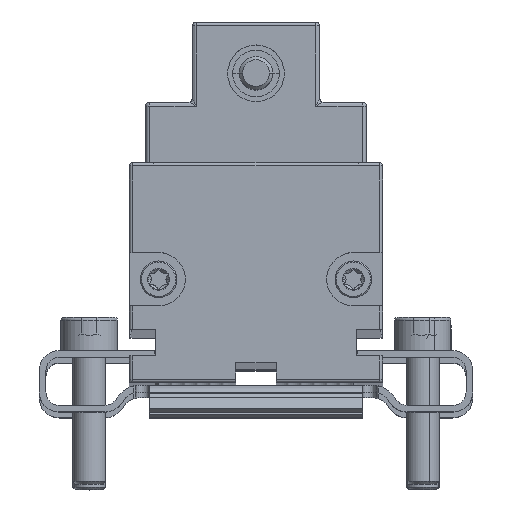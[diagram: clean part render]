
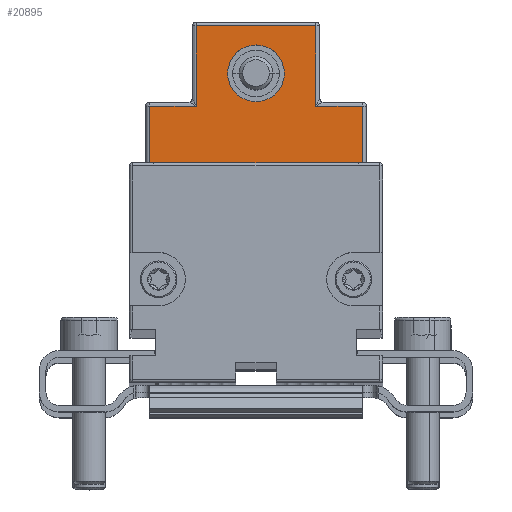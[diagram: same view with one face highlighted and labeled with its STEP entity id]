
A CAD part, top view. The second image highlights one B-rep face of the part: STEP entity #20895.
In plain terms, the highlighted planar face has unit normal (0, 0, 1).
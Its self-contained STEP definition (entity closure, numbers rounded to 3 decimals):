
#5865 = DIRECTION ( 'NONE',  ( 0., 1., 0. ) ) ;
#5867 = DIRECTION ( 'NONE',  ( 0., 0., 1. ) ) ;
#5869 = CARTESIAN_POINT ( 'NONE',  ( 0., 47.5, 104.1 ) ) ;
#5870 = AXIS2_PLACEMENT_3D ( 'NONE', #5869, #5867, #5865 ) ;
#5871 = CIRCLE ( 'NONE', #5870, 4.25 ) ;
#5975 = FACE_OUTER_BOUND ( 'NONE', #21309, .T. ) ;
#5977 = FACE_BOUND ( 'NONE', #18940, .T. ) ;
#6077 = DIRECTION ( 'NONE',  ( 0., -1., 0. ) ) ;
#6079 = DIRECTION ( 'NONE',  ( 0., 0., -1. ) ) ;
#6080 = CARTESIAN_POINT ( 'NONE',  ( -15.25, 31.3, 104.1 ) ) ;
#6082 = AXIS2_PLACEMENT_3D ( 'NONE', #6080, #6079, #6077 ) ;
#6088 = PLANE ( 'NONE',  #6082 ) ;
#6141 = DIRECTION ( 'NONE',  ( -1., 0., 0. ) ) ;
#6142 = VECTOR ( 'NONE', #6141, 1000. ) ;
#6144 = CARTESIAN_POINT ( 'NONE',  ( 9.75, 31., 104.1 ) ) ;
#6146 = LINE ( 'NONE', #6144, #6142 ) ;
#6151 = DIRECTION ( 'NONE',  ( 0., 1., 0. ) ) ;
#6153 = VECTOR ( 'NONE', #6151, 1000. ) ;
#6155 = CARTESIAN_POINT ( 'NONE',  ( -9.75, 31., 104.1 ) ) ;
#6156 = LINE ( 'NONE', #6155, #6153 ) ;
#6161 = CARTESIAN_POINT ( 'NONE',  ( -9.75, 31., 104.1 ) ) ;
#6251 = LINE ( 'NONE', #6399, #6397 ) ;
#6264 = CARTESIAN_POINT ( 'NONE',  ( -15.95, 42.6, 104.1 ) ) ;
#6266 = DIRECTION ( 'NONE',  ( -1., 0., 0. ) ) ;
#6268 = VECTOR ( 'NONE', #6266, 1000. ) ;
#6269 = CARTESIAN_POINT ( 'NONE',  ( -16.55, 42.6, 104.1 ) ) ;
#6271 = LINE ( 'NONE', #6269, #6268 ) ;
#6303 = CARTESIAN_POINT ( 'NONE',  ( 8.95, 54.6, 104.1 ) ) ;
#6307 = CARTESIAN_POINT ( 'NONE',  ( -8.95, 42.6, 104.1 ) ) ;
#6340 = CARTESIAN_POINT ( 'NONE',  ( 8.95, 42.6, 104.1 ) ) ;
#6396 = DIRECTION ( 'NONE',  ( 0., -1., 0. ) ) ;
#6397 = VECTOR ( 'NONE', #6396, 1000. ) ;
#6399 = CARTESIAN_POINT ( 'NONE',  ( -15.95, 31.3, 104.1 ) ) ;
#6444 = CARTESIAN_POINT ( 'NONE',  ( 15.95, 42.6, 104.1 ) ) ;
#6447 = DIRECTION ( 'NONE',  ( 0., 1., 0. ) ) ;
#6449 = VECTOR ( 'NONE', #6447, 1000. ) ;
#6451 = CARTESIAN_POINT ( 'NONE',  ( 15.95, 31.3, 104.1 ) ) ;
#6452 = LINE ( 'NONE', #6451, #6449 ) ;
#6457 = DIRECTION ( 'NONE',  ( 0., 1., 0. ) ) ;
#6458 = VECTOR ( 'NONE', #6457, 1000. ) ;
#6461 = CARTESIAN_POINT ( 'NONE',  ( 8.95, 55.2, 104.1 ) ) ;
#6462 = LINE ( 'NONE', #6461, #6458 ) ;
#6466 = DIRECTION ( 'NONE',  ( -1., 0., 0. ) ) ;
#6468 = VECTOR ( 'NONE', #6466, 1000. ) ;
#6469 = CARTESIAN_POINT ( 'NONE',  ( -15.25, 42.6, 104.1 ) ) ;
#6471 = LINE ( 'NONE', #6469, #6468 ) ;
#6498 = CARTESIAN_POINT ( 'NONE',  ( 9.75, 31.2, 104.1 ) ) ;
#6504 = CARTESIAN_POINT ( 'NONE',  ( 15.95, 31.2, 104.1 ) ) ;
#6515 = DIRECTION ( 'NONE',  ( -1., 0., 0. ) ) ;
#6516 = VECTOR ( 'NONE', #6515, 1000. ) ;
#6518 = CARTESIAN_POINT ( 'NONE',  ( -15.95, 31.2, 104.1 ) ) ;
#6520 = LINE ( 'NONE', #6518, #6516 ) ;
#6606 = DIRECTION ( 'NONE',  ( 0., 1., 0. ) ) ;
#6607 = VECTOR ( 'NONE', #6606, 1000. ) ;
#6609 = CARTESIAN_POINT ( 'NONE',  ( 9.75, 31., 104.1 ) ) ;
#6610 = LINE ( 'NONE', #6609, #6607 ) ;
#6814 = DIRECTION ( 'NONE',  ( 0., -1., 0. ) ) ;
#6815 = VECTOR ( 'NONE', #6814, 1000. ) ;
#6817 = CARTESIAN_POINT ( 'NONE',  ( -8.95, 31.3, 104.1 ) ) ;
#6819 = LINE ( 'NONE', #6817, #6815 ) ;
#6852 = DIRECTION ( 'NONE',  ( -1., 0., 0. ) ) ;
#6854 = VECTOR ( 'NONE', #6852, 1000. ) ;
#6856 = CARTESIAN_POINT ( 'NONE',  ( -15.25, 54.6, 104.1 ) ) ;
#6858 = LINE ( 'NONE', #6856, #6854 ) ;
#6884 = CARTESIAN_POINT ( 'NONE',  ( -8.95, 54.6, 104.1 ) ) ;
#18900 = ORIENTED_EDGE ( 'NONE', *, *, #20430, .F. ) ;
#18940 = EDGE_LOOP ( 'NONE', ( #18900, #21185 ) ) ;
#20430 = EDGE_CURVE ( 'NONE', #30541, #30412, #5871, .T. ) ;
#20895 = ADVANCED_FACE ( 'NONE', ( #5977, #5975 ), #6088, .F. ) ;
#20908 = VERTEX_POINT ( 'NONE', #6161 ) ;
#20966 = EDGE_CURVE ( 'NONE', #20908, #30482, #6156, .T. ) ;
#21007 = EDGE_CURVE ( 'NONE', #29936, #20908, #6146, .T. ) ;
#21131 = ORIENTED_EDGE ( 'NONE', *, *, #21007, .F. ) ;
#21155 = VERTEX_POINT ( 'NONE', #6307 ) ;
#21184 = VERTEX_POINT ( 'NONE', #6303 ) ;
#21185 = ORIENTED_EDGE ( 'NONE', *, *, #30576, .F. ) ;
#21213 = EDGE_CURVE ( 'NONE', #21155, #21232, #6271, .T. ) ;
#21232 = VERTEX_POINT ( 'NONE', #6264 ) ;
#21260 = ORIENTED_EDGE ( 'NONE', *, *, #21306, .T. ) ;
#21306 = EDGE_CURVE ( 'NONE', #21232, #30486, #6251, .T. ) ;
#21308 = ORIENTED_EDGE ( 'NONE', *, *, #21213, .T. ) ;
#21309 = EDGE_LOOP ( 'NONE', ( #21308, #21260, #21312, #21325, #21131, #22546, #22352, #22092, #21539, #21532, #24594, #23916 ) ) ;
#21312 = ORIENTED_EDGE ( 'NONE', *, *, #30481, .F. ) ;
#21325 = ORIENTED_EDGE ( 'NONE', *, *, #20966, .F. ) ;
#21452 = VERTEX_POINT ( 'NONE', #6340 ) ;
#21532 = ORIENTED_EDGE ( 'NONE', *, *, #21590, .T. ) ;
#21539 = ORIENTED_EDGE ( 'NONE', *, *, #21543, .T. ) ;
#21543 = EDGE_CURVE ( 'NONE', #21824, #21452, #6471, .T. ) ;
#21590 = EDGE_CURVE ( 'NONE', #21452, #21184, #6462, .T. ) ;
#21705 = EDGE_CURVE ( 'NONE', #22508, #21824, #6452, .T. ) ;
#21824 = VERTEX_POINT ( 'NONE', #6444 ) ;
#22092 = ORIENTED_EDGE ( 'NONE', *, *, #21705, .T. ) ;
#22352 = ORIENTED_EDGE ( 'NONE', *, *, #22396, .F. ) ;
#22396 = EDGE_CURVE ( 'NONE', #22508, #22580, #6520, .T. ) ;
#22508 = VERTEX_POINT ( 'NONE', #6504 ) ;
#22546 = ORIENTED_EDGE ( 'NONE', *, *, #22660, .T. ) ;
#22580 = VERTEX_POINT ( 'NONE', #6498 ) ;
#22660 = EDGE_CURVE ( 'NONE', #29936, #22580, #6610, .T. ) ;
#23916 = ORIENTED_EDGE ( 'NONE', *, *, #24160, .T. ) ;
#24160 = EDGE_CURVE ( 'NONE', #24482, #21155, #6819, .T. ) ;
#24482 = VERTEX_POINT ( 'NONE', #6884 ) ;
#24594 = ORIENTED_EDGE ( 'NONE', *, *, #24970, .T. ) ;
#24970 = EDGE_CURVE ( 'NONE', #21184, #24482, #6858, .T. ) ;
#29936 = VERTEX_POINT ( 'NONE', #33609 ) ;
#30412 = VERTEX_POINT ( 'NONE', #35053 ) ;
#30481 = EDGE_CURVE ( 'NONE', #30482, #30486, #35326, .T. ) ;
#30482 = VERTEX_POINT ( 'NONE', #35318 ) ;
#30486 = VERTEX_POINT ( 'NONE', #35311 ) ;
#30541 = VERTEX_POINT ( 'NONE', #35585 ) ;
#30576 = EDGE_CURVE ( 'NONE', #30412, #30541, #35707, .T. ) ;
#33609 = CARTESIAN_POINT ( 'NONE',  ( 9.75, 31., 104.1 ) ) ;
#35053 = CARTESIAN_POINT ( 'NONE',  ( 0., 43.25, 104.1 ) ) ;
#35311 = CARTESIAN_POINT ( 'NONE',  ( -15.95, 31.2, 104.1 ) ) ;
#35318 = CARTESIAN_POINT ( 'NONE',  ( -9.75, 31.2, 104.1 ) ) ;
#35319 = DIRECTION ( 'NONE',  ( -1., 0., 0. ) ) ;
#35320 = VECTOR ( 'NONE', #35319, 1000. ) ;
#35321 = CARTESIAN_POINT ( 'NONE',  ( -15.95, 31.2, 104.1 ) ) ;
#35326 = LINE ( 'NONE', #35321, #35320 ) ;
#35585 = CARTESIAN_POINT ( 'NONE',  ( 0., 51.75, 104.1 ) ) ;
#35703 = DIRECTION ( 'NONE',  ( 0., 1., 0. ) ) ;
#35704 = DIRECTION ( 'NONE',  ( 0., 0., 1. ) ) ;
#35705 = CARTESIAN_POINT ( 'NONE',  ( 0., 47.5, 104.1 ) ) ;
#35706 = AXIS2_PLACEMENT_3D ( 'NONE', #35705, #35704, #35703 ) ;
#35707 = CIRCLE ( 'NONE', #35706, 4.25 ) ;
